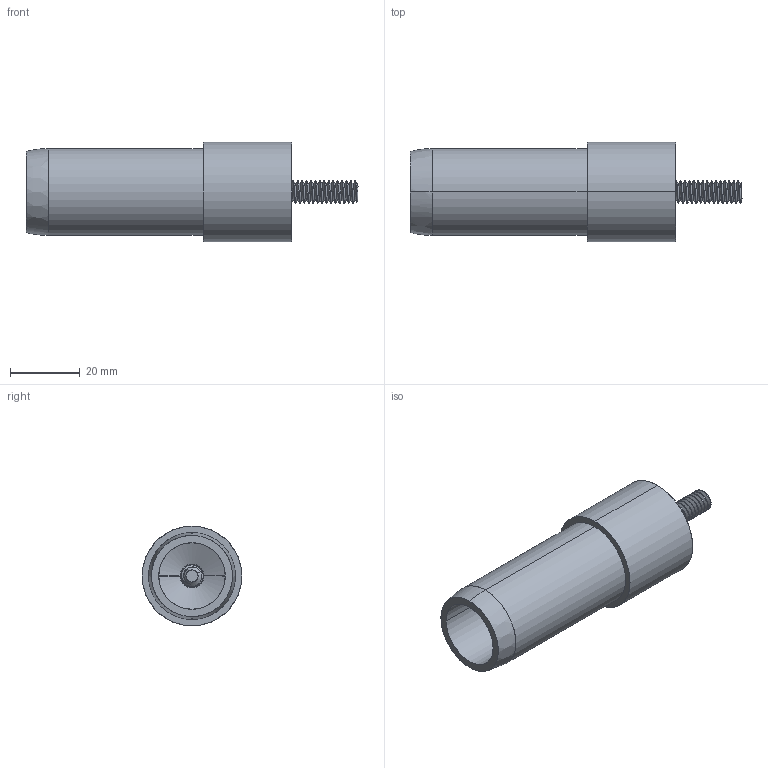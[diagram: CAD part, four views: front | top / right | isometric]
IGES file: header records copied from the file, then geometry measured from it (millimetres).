
Start section: SolidWorks IGES file using analytic representation for surfaces
Global section: file name: \\SERVER3\Design\_New Design Drive Folder List\_Design Vault\AAI\Modular Round Tube Connectors\Solidworks Models\STP Files\12202013\1.000 Inch Modular Connectors\DRP-002-0518-00.IGS; native system: SolidWorks 2013; preprocessor: SolidWorks 2013; author: tbraun; date: 131220.115035; units: inch
Bounding box: 95.25 x 28.57 x 28.57 mm (x, y, z)
Surface area: 13019.3 mm2 (no closed solid volume)
Topology: 0 solids, 0 shells, 114 faces, 1893 edges, 1891 vertices
Faces by surface type: revolution 82, bspline 32
